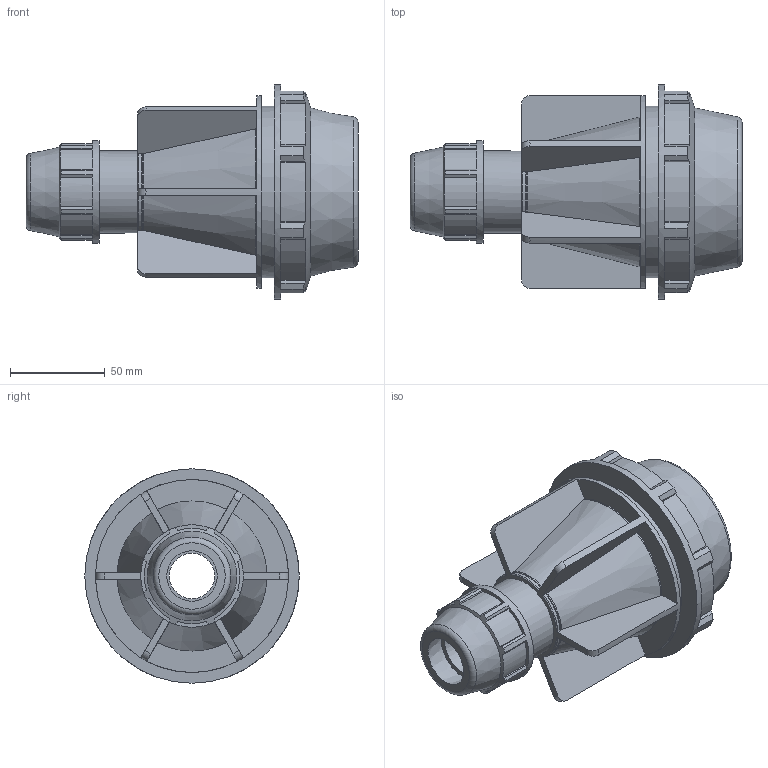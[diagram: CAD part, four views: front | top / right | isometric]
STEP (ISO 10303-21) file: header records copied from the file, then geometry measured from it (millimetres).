
FILE_DESCRIPTION(/* description */ ('PLASSON REDUCING COUPLER 2'''' - 3/4'''''),/* implementation_level */ '2;1');
FILE_NAME(/* name */ 'C:\Dropbox\KIMPROJECTS-Inventor 2019\99-16-3568-Processing Inch\ASTM Compression 2021\0711M0\0711M0020007.ipt.stp',/* time_stamp */ '2021-08-26T12:32:57+03:00',/* author */ ('KIM'),/* organization */ (''),/* preprocessor_version */ 'ST-DEVELOPER v17.2',/* originating_system */ 'Autodesk Inventor 2019',/* authorisation */ '');
FILE_SCHEMA (('AUTOMOTIVE_DESIGN { 1 0 10303 214 3 1 1 }'));
Length unit declared in the file: inch
Products named in the file (1): 0711M0020007
Bounding box: 175 x 113.03 x 113.03 mm (x, y, z)
Volume: 434009 mm3; surface area: 94359.5 mm2
Topology: 1 solids, 1 shells, 212 faces, 632 edges, 429 vertices
Faces by surface type: plane 137, cylinder 47, torus 14, cone 14
Full cylindrical faces by diameter (mm): 26.6 x1, 43.282 x1, 54.102 x1, 60.1 x1, 90.424 x1, 101.727 x1, 113.03 x1
Entity records: 7538 total; most frequent: CARTESIAN_POINT 1604, ORIENTED_EDGE 1264, DIRECTION 1153, EDGE_CURVE 632, VERTEX_POINT 429, AXIS2_PLACEMENT_3D 407, LINE 339, VECTOR 339
